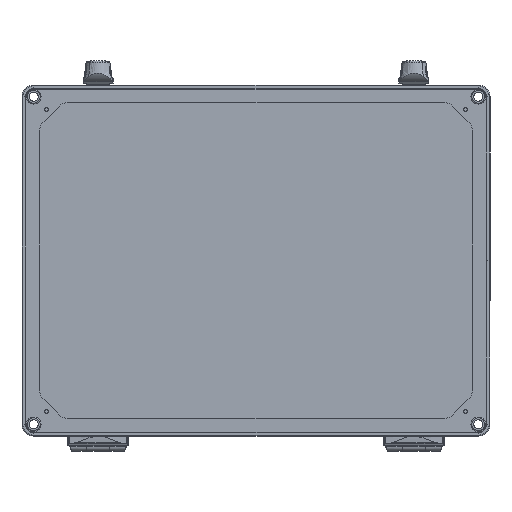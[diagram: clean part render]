
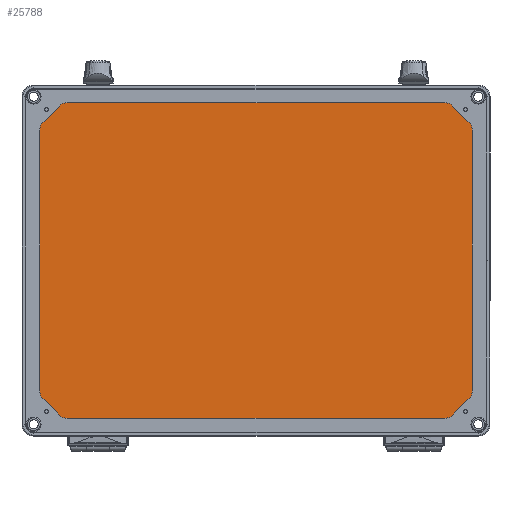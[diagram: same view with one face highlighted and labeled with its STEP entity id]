
A CAD part, front view. The second image highlights one B-rep face of the part: STEP entity #25788.
In plain terms, the highlighted planar face has unit normal (0, -1, 0).
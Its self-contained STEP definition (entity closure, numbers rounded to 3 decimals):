
#137 = CARTESIAN_POINT ( 'NONE',  ( -175., 2., -110.858 ) ) ;
#411 = LINE ( 'NONE', #23995, #20920 ) ;
#445 = VECTOR ( 'NONE', #22709, 1000. ) ;
#535 = CARTESIAN_POINT ( 'NONE',  ( -182.062, 2., -117.92 ) ) ;
#671 = DIRECTION ( 'NONE',  ( 0., 1., 0. ) ) ;
#1890 = VERTEX_POINT ( 'NONE', #13686 ) ;
#2093 = ORIENTED_EDGE ( 'NONE', *, *, #23006, .T. ) ;
#2878 = CIRCLE ( 'NONE', #25924, 9.987 ) ;
#3731 = CARTESIAN_POINT ( 'NONE',  ( 182.062, 2., 117.92 ) ) ;
#3910 = EDGE_CURVE ( 'NONE', #18142, #26413, #4425, .T. ) ;
#4251 = CARTESIAN_POINT ( 'NONE',  ( 175., 2., -110.858 ) ) ;
#4425 = CIRCLE ( 'NONE', #39292, 9.987 ) ;
#4561 = DIRECTION ( 'NONE',  ( 0.707, 0., -0.707 ) ) ;
#4624 = EDGE_CURVE ( 'NONE', #10491, #35227, #15855, .T. ) ;
#5277 = EDGE_CURVE ( 'NONE', #8105, #8042, #18465, .T. ) ;
#5526 = VERTEX_POINT ( 'NONE', #19899 ) ;
#5989 = LINE ( 'NONE', #7046, #37651 ) ;
#6241 = DIRECTION ( 'NONE',  ( 0., 0., 1. ) ) ;
#6736 = CARTESIAN_POINT ( 'NONE',  ( -182.062, 2., 117.92 ) ) ;
#6900 = EDGE_CURVE ( 'NONE', #29164, #18142, #411, .T. ) ;
#7046 = CARTESIAN_POINT ( 'NONE',  ( -160.858, 2., 134.987 ) ) ;
#8042 = VERTEX_POINT ( 'NONE', #25340 ) ;
#8105 = VERTEX_POINT ( 'NONE', #29241 ) ;
#9188 = CARTESIAN_POINT ( 'NONE',  ( -160.858, 2., 125. ) ) ;
#9231 = CARTESIAN_POINT ( 'NONE',  ( 184.987, 2., 110.858 ) ) ;
#9289 = CARTESIAN_POINT ( 'NONE',  ( 184.987, 2., 110.858 ) ) ;
#9609 = CARTESIAN_POINT ( 'NONE',  ( 167.92, 2., 132.062 ) ) ;
#10039 = DIRECTION ( 'NONE',  ( -0.707, 0., 0.707 ) ) ;
#10491 = VERTEX_POINT ( 'NONE', #36533 ) ;
#10950 = EDGE_CURVE ( 'NONE', #14098, #33206, #15572, .T. ) ;
#11421 = VERTEX_POINT ( 'NONE', #19799 ) ;
#11440 = VECTOR ( 'NONE', #30658, 1000. ) ;
#11766 = VERTEX_POINT ( 'NONE', #13379 ) ;
#12592 = ORIENTED_EDGE ( 'NONE', *, *, #31207, .T. ) ;
#12868 = CARTESIAN_POINT ( 'NONE',  ( 167.92, 2., -132.062 ) ) ;
#12912 = AXIS2_PLACEMENT_3D ( 'NONE', #35600, #31897, #21869 ) ;
#13128 = AXIS2_PLACEMENT_3D ( 'NONE', #27311, #671, #37995 ) ;
#13379 = CARTESIAN_POINT ( 'NONE',  ( 167.92, 2., 132.062 ) ) ;
#13686 = CARTESIAN_POINT ( 'NONE',  ( -184.987, 2., -110.858 ) ) ;
#14098 = VERTEX_POINT ( 'NONE', #36171 ) ;
#14503 = EDGE_CURVE ( 'NONE', #1890, #16113, #2878, .T. ) ;
#15259 = AXIS2_PLACEMENT_3D ( 'NONE', #42148, #25124, #38443 ) ;
#15435 = ORIENTED_EDGE ( 'NONE', *, *, #36636, .T. ) ;
#15572 = CIRCLE ( 'NONE', #35099, 9.987 ) ;
#15855 = LINE ( 'NONE', #9289, #37241 ) ;
#16113 = VERTEX_POINT ( 'NONE', #535 ) ;
#16243 = DIRECTION ( 'NONE',  ( -1., 0., 0. ) ) ;
#16340 = ORIENTED_EDGE ( 'NONE', *, *, #10950, .T. ) ;
#16410 = DIRECTION ( 'NONE',  ( 0., 0., 1. ) ) ;
#16430 = CIRCLE ( 'NONE', #34551, 9.987 ) ;
#16812 = LINE ( 'NONE', #9609, #22562 ) ;
#17073 = ORIENTED_EDGE ( 'NONE', *, *, #35093, .T. ) ;
#17764 = ORIENTED_EDGE ( 'NONE', *, *, #21255, .T. ) ;
#18142 = VERTEX_POINT ( 'NONE', #42532 ) ;
#18465 = CIRCLE ( 'NONE', #12912, 9.987 ) ;
#19086 = CARTESIAN_POINT ( 'NONE',  ( -160.858, 2., -134.987 ) ) ;
#19266 = ORIENTED_EDGE ( 'NONE', *, *, #6900, .T. ) ;
#19420 = DIRECTION ( 'NONE',  ( -0.707, 0., -0.707 ) ) ;
#19758 = CARTESIAN_POINT ( 'NONE',  ( 167.92, 2., -132.062 ) ) ;
#19799 = CARTESIAN_POINT ( 'NONE',  ( 182.062, 2., -117.92 ) ) ;
#19899 = CARTESIAN_POINT ( 'NONE',  ( -167.92, 2., -132.062 ) ) ;
#20920 = VECTOR ( 'NONE', #36446, 1000. ) ;
#21255 = EDGE_CURVE ( 'NONE', #16113, #5526, #27906, .T. ) ;
#21869 = DIRECTION ( 'NONE',  ( 0., 0., 1. ) ) ;
#22562 = VECTOR ( 'NONE', #10039, 1000. ) ;
#22618 = VECTOR ( 'NONE', #4561, 1000. ) ;
#22709 = DIRECTION ( 'NONE',  ( 0.707, 0., 0.707 ) ) ;
#23006 = EDGE_CURVE ( 'NONE', #11421, #10491, #16430, .T. ) ;
#23391 = ORIENTED_EDGE ( 'NONE', *, *, #29209, .T. ) ;
#23469 = DIRECTION ( 'NONE',  ( 0., 0., 1. ) ) ;
#23840 = EDGE_CURVE ( 'NONE', #33206, #8105, #42740, .T. ) ;
#23995 = CARTESIAN_POINT ( 'NONE',  ( -160.858, 2., -134.987 ) ) ;
#24157 = CARTESIAN_POINT ( 'NONE',  ( -167.92, 2., 132.062 ) ) ;
#24251 = FACE_OUTER_BOUND ( 'NONE', #32872, .T. ) ;
#24295 = VERTEX_POINT ( 'NONE', #29177 ) ;
#24545 = DIRECTION ( 'NONE',  ( 0., -1., 0. ) ) ;
#24711 = VERTEX_POINT ( 'NONE', #3731 ) ;
#25124 = DIRECTION ( 'NONE',  ( 0., -1., 0. ) ) ;
#25181 = DIRECTION ( 'NONE',  ( 0., 0., 1. ) ) ;
#25340 = CARTESIAN_POINT ( 'NONE',  ( -184.987, 2., 110.858 ) ) ;
#25720 = DIRECTION ( 'NONE',  ( 0., -1., 0. ) ) ;
#25788 = ADVANCED_FACE ( 'NONE', ( #24251 ), #37360, .F. ) ;
#25924 = AXIS2_PLACEMENT_3D ( 'NONE', #137, #25720, #39023 ) ;
#26161 = ORIENTED_EDGE ( 'NONE', *, *, #41283, .T. ) ;
#26390 = ORIENTED_EDGE ( 'NONE', *, *, #39027, .T. ) ;
#26413 = VERTEX_POINT ( 'NONE', #19758 ) ;
#26949 = VECTOR ( 'NONE', #19420, 1000. ) ;
#27311 = CARTESIAN_POINT ( 'NONE',  ( 175., 2., 110.858 ) ) ;
#27618 = CARTESIAN_POINT ( 'NONE',  ( -184.987, 2., 110.858 ) ) ;
#27906 = LINE ( 'NONE', #31831, #22618 ) ;
#28449 = DIRECTION ( 'NONE',  ( 0., -1., 0. ) ) ;
#29164 = VERTEX_POINT ( 'NONE', #19086 ) ;
#29177 = CARTESIAN_POINT ( 'NONE',  ( 160.858, 2., 134.987 ) ) ;
#29209 = EDGE_CURVE ( 'NONE', #24295, #14098, #5989, .T. ) ;
#29241 = CARTESIAN_POINT ( 'NONE',  ( -182.062, 2., 117.92 ) ) ;
#29365 = ORIENTED_EDGE ( 'NONE', *, *, #23840, .T. ) ;
#30117 = CIRCLE ( 'NONE', #33628, 9.987 ) ;
#30623 = ORIENTED_EDGE ( 'NONE', *, *, #3910, .T. ) ;
#30658 = DIRECTION ( 'NONE',  ( 0., 0., -1. ) ) ;
#30959 = AXIS2_PLACEMENT_3D ( 'NONE', #31944, #28449, #25181 ) ;
#30987 = CIRCLE ( 'NONE', #30959, 9.987 ) ;
#31169 = ORIENTED_EDGE ( 'NONE', *, *, #34388, .T. ) ;
#31207 = EDGE_CURVE ( 'NONE', #35227, #24711, #30117, .T. ) ;
#31301 = CARTESIAN_POINT ( 'NONE',  ( 175., 2., 110.858 ) ) ;
#31302 = DIRECTION ( 'NONE',  ( 0., 0., 1. ) ) ;
#31831 = CARTESIAN_POINT ( 'NONE',  ( -182.062, 2., -117.92 ) ) ;
#31897 = DIRECTION ( 'NONE',  ( 0., -1., 0. ) ) ;
#31944 = CARTESIAN_POINT ( 'NONE',  ( 160.858, 2., 125. ) ) ;
#32872 = EDGE_LOOP ( 'NONE', ( #12592, #31169, #17073, #23391, #16340, #29365, #36506, #15435, #42221, #17764, #26161, #19266, #30623, #26390, #2093, #38465 ) ) ;
#33187 = LINE ( 'NONE', #12868, #445 ) ;
#33206 = VERTEX_POINT ( 'NONE', #24157 ) ;
#33299 = CARTESIAN_POINT ( 'NONE',  ( 160.858, 2., -125. ) ) ;
#33394 = CIRCLE ( 'NONE', #15259, 9.987 ) ;
#33628 = AXIS2_PLACEMENT_3D ( 'NONE', #31301, #41776, #41349 ) ;
#33955 = LINE ( 'NONE', #27618, #11440 ) ;
#34388 = EDGE_CURVE ( 'NONE', #24711, #11766, #16812, .T. ) ;
#34551 = AXIS2_PLACEMENT_3D ( 'NONE', #4251, #24545, #31302 ) ;
#35093 = EDGE_CURVE ( 'NONE', #11766, #24295, #30987, .T. ) ;
#35099 = AXIS2_PLACEMENT_3D ( 'NONE', #9188, #36049, #16410 ) ;
#35227 = VERTEX_POINT ( 'NONE', #9231 ) ;
#35600 = CARTESIAN_POINT ( 'NONE',  ( -175., 2., 110.858 ) ) ;
#36049 = DIRECTION ( 'NONE',  ( 0., -1., 0. ) ) ;
#36171 = CARTESIAN_POINT ( 'NONE',  ( -160.858, 2., 134.987 ) ) ;
#36346 = DIRECTION ( 'NONE',  ( 0., -1., 0. ) ) ;
#36446 = DIRECTION ( 'NONE',  ( 1., 0., 0. ) ) ;
#36506 = ORIENTED_EDGE ( 'NONE', *, *, #5277, .T. ) ;
#36533 = CARTESIAN_POINT ( 'NONE',  ( 184.987, 2., -110.858 ) ) ;
#36636 = EDGE_CURVE ( 'NONE', #8042, #1890, #33955, .T. ) ;
#37241 = VECTOR ( 'NONE', #6241, 1000. ) ;
#37360 = PLANE ( 'NONE',  #13128 ) ;
#37651 = VECTOR ( 'NONE', #16243, 1000. ) ;
#37995 = DIRECTION ( 'NONE',  ( 0., 0., 1. ) ) ;
#38443 = DIRECTION ( 'NONE',  ( 0., 0., 1. ) ) ;
#38465 = ORIENTED_EDGE ( 'NONE', *, *, #4624, .T. ) ;
#39023 = DIRECTION ( 'NONE',  ( 0., 0., 1. ) ) ;
#39027 = EDGE_CURVE ( 'NONE', #26413, #11421, #33187, .T. ) ;
#39292 = AXIS2_PLACEMENT_3D ( 'NONE', #33299, #36346, #23469 ) ;
#41283 = EDGE_CURVE ( 'NONE', #5526, #29164, #33394, .T. ) ;
#41349 = DIRECTION ( 'NONE',  ( 0., 0., 1. ) ) ;
#41776 = DIRECTION ( 'NONE',  ( 0., -1., 0. ) ) ;
#42148 = CARTESIAN_POINT ( 'NONE',  ( -160.858, 2., -125. ) ) ;
#42221 = ORIENTED_EDGE ( 'NONE', *, *, #14503, .T. ) ;
#42532 = CARTESIAN_POINT ( 'NONE',  ( 160.858, 2., -134.987 ) ) ;
#42740 = LINE ( 'NONE', #6736, #26949 ) ;
